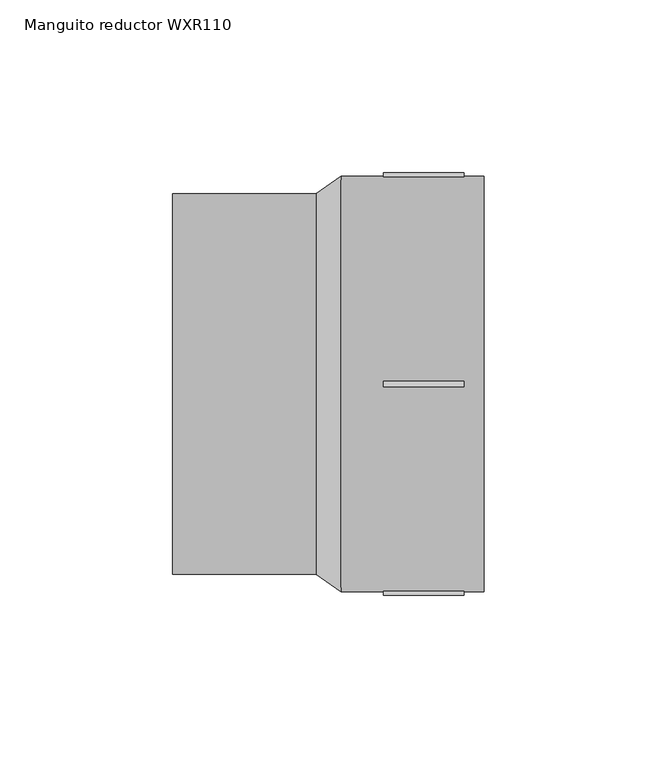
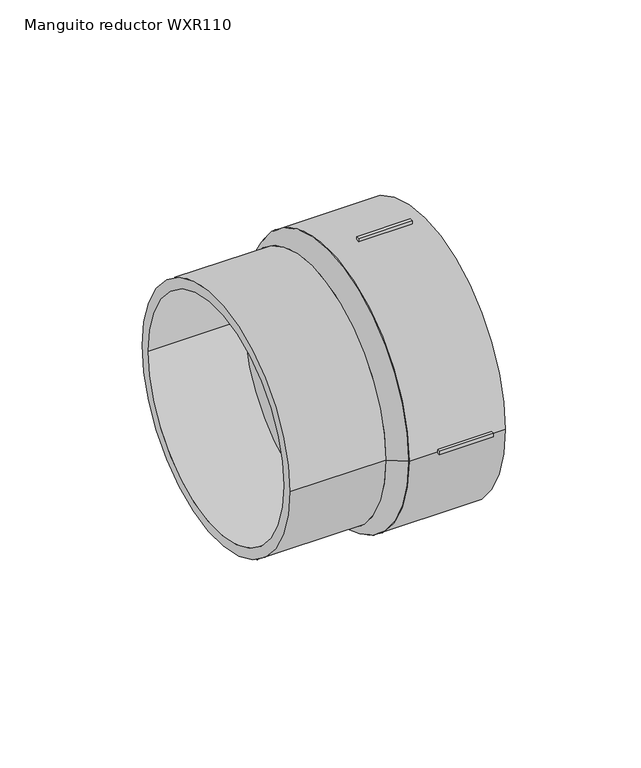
"""IFC4 building model written with IfcOpenShell, lengths in millimetres: pipe fitting geometry, EGB_VASEN_ PPR_Manguito reductor WXR110 : Manguito reductor WXR110."""

from ifc_helpers import new_model, si_unit, point, frame, origin, origin_2d, place, context, project, spatial, polyline, circle_curve, trimmed, segment, composite_curve, outline, extrude, source, transform, mapped, element, save
from ifc_brep_helpers import plane_surface, revolved_surface, advanced_brep


def manguito_reductor_wxr110_4234581a(model_context):
    return source(origin(), model_context, "Body", "SolidModel", [
        extrude(outline(polyline([(16.0, -0.75), (16.0, 0.75), (39.2, 0.75), (39.2, -0.75), (16.0, -0.75)])), frame((0.0, 0.0, 59.0), z_axis=(0.0, 0.0, 1.0), x_axis=(1.0, 0.0, 0.0)), (0.0, 0.0, 1.0), 2.0),
        extrude(outline(polyline([(16.0, -0.75), (16.0, 0.75), (39.2, 0.75), (39.2, -0.75), (16.0, -0.75)])), frame((0.0, 0.0, -61.0), z_axis=(0.0, 0.0, 1.0), x_axis=(1.0, 0.0, 0.0)), (0.0, 0.0, 1.0), 2.0),
        extrude(outline(polyline([(16.0, 59.0), (16.0, 61.0), (39.2, 61.0), (39.2, 59.0), (16.0, 59.0)])), frame((0.0, 0.0, -0.75), z_axis=(0.0, 0.0, 1.0), x_axis=(1.0, 0.0, 0.0)), (0.0, 0.0, 1.0), 1.5),
        extrude(outline(polyline([(16.0, -61.0), (16.0, -59.0), (39.2, -59.0), (39.2, -61.0), (16.0, -61.0)])), frame((0.0, 0.0, -0.75), z_axis=(0.0, 0.0, 1.0), x_axis=(1.0, 0.0, 0.0)), (0.0, 0.0, 1.0), 1.5),
        extrude(outline(composite_curve([segment(trimmed(circle_curve(origin_2d(), 60.0), [point((-60.0, 0.0))], [point((60.0, 0.0))], False, "CARTESIAN"), True, "CONTINUOUS"), segment(trimmed(circle_curve(origin_2d(), 60.0), [point((60.0, 0.0))], [point((-60.0, 0.0))], False, "CARTESIAN"), True, "CONTINUOUS")], self_intersect=False), holes=[composite_curve([segment(trimmed(circle_curve(origin_2d(), 45.0), [point((-45.0, 0.0))], [point((45.0, 0.0))], True, "CARTESIAN"), True, "CONTINUOUS"), segment(trimmed(circle_curve(origin_2d(), 45.0), [point((45.0, 0.0))], [point((-45.0, 0.0))], True, "CARTESIAN"), True, "CONTINUOUS")], self_intersect=False)]), frame((3.6, 0.0, 0.0), z_axis=(1.0, 0.0, 0.0), x_axis=(0.0, 1.0, 0.0)), (0.0, 0.0, 1.0), 41.4),
        extrude(outline(composite_curve([segment(trimmed(circle_curve(origin_2d(), 55.0), [point((-55.0, 0.0))], [point((55.0, 0.0))], False, "CARTESIAN"), True, "CONTINUOUS"), segment(trimmed(circle_curve(origin_2d(), 55.0), [point((55.0, 0.0))], [point((-55.0, 0.0))], False, "CARTESIAN"), True, "CONTINUOUS")], self_intersect=False), holes=[composite_curve([segment(trimmed(circle_curve(origin_2d(), 50.5), [point((-50.5, 0.0))], [point((50.5, 0.0))], True, "CARTESIAN"), True, "CONTINUOUS"), segment(trimmed(circle_curve(origin_2d(), 50.5), [point((50.5, 0.0))], [point((-50.5, 0.0))], True, "CARTESIAN"), True, "CONTINUOUS")], self_intersect=False)]), frame((-45.0, 0.0, 0.0), z_axis=(1.0, 0.0, 0.0), x_axis=(0.0, 1.0, 0.0)), (0.0, 0.0, 1.0), 41.4),
        advanced_brep(
        [(3.6, -60.0, 0.0), (3.6, 60.0, 0.0), (-3.6, -55.0, 0.0), (-3.6, 55.0, 0.0)],
        [
            (0, 1, circle_curve(frame((3.6, 0.0, 0.0), z_axis=(1.0, 0.0, 0.0), x_axis=(0.0, -1.0, 0.0)), 60.0)),
            (1, 0, circle_curve(frame((3.6, 0.0, 0.0), z_axis=(1.0, 0.0, 0.0), x_axis=(0.0, 1.0, 0.0)), 60.0)),
            (2, 3, circle_curve(frame((-3.6, 0.0, 0.0), z_axis=(-1.0, 0.0, 0.0), x_axis=(0.0, 1.0, 0.0)), 55.0)),
            (3, 2, circle_curve(frame((-3.6, 0.0, 0.0), z_axis=(-1.0, 0.0, 0.0), x_axis=(0.0, -1.0, 0.0)), 55.0)),
            (3, 1),
            (0, 2),
        ],
        [
            plane_surface(frame((3.6, 0.0, 0.0), z_axis=(1.0, 0.0, 0.0), x_axis=(0.0, 0.0, -1.0))),
            plane_surface(frame((-3.6, 0.0, 0.0), z_axis=(-1.0, 0.0, 0.0), x_axis=(0.0, 0.0, -1.0))),
            revolved_surface(polyline([(-3.5999999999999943, 55.00000000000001, 0.0), (3.5999999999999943, 60.0, 0.0)]), (-82.8, 0.0, 0.0), (1.0, 0.0, 0.0)),
            revolved_surface(polyline([(-3.5999999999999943, -55.00000000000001, 0.0), (3.5999999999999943, -60.0, 0.0)]), (-82.8, 0.0, 0.0), (1.0, 0.0, 0.0)),
        ],
        [
            (0, [[1, 2]]),
            (1, [[3, 4]]),
            (2, [[-4, 5, -1, 6]]),
            (3, [[-3, -6, -2, -5]]),
        ],
    ),
    ])


if __name__ == "__main__":
    model = new_model("IFC4")
    model_context = context("Model", 3, world=origin())
    ifc_project = project(units=[si_unit("LENGTHUNIT", "METRE", prefix="MILLI")], contexts=[model_context])
    site = spatial("IfcSite", under=ifc_project)
    building = spatial("IfcBuilding", under=site)
    placement = place(None, origin())
    manguito_reductor_wxr110_shape = manguito_reductor_wxr110_4234581a(model_context)
    element("IfcPipeFitting", 1, ObjectType="EGB_VASEN_ PPR_Manguito reductor WXR110 : Manguito reductor WXR110", at=placement, inside=building, context=model_context, shape_type="MappedRepresentation", body=[
        mapped(manguito_reductor_wxr110_shape, transform((0.0, 0.0, 0.0), x_axis=(1.0, 0.0, 0.0), y_axis=(0.0, 1.0, 0.0), z_axis=(0.0, 0.0, 1.0))),
    ])
    save(model, "model.ifc")
